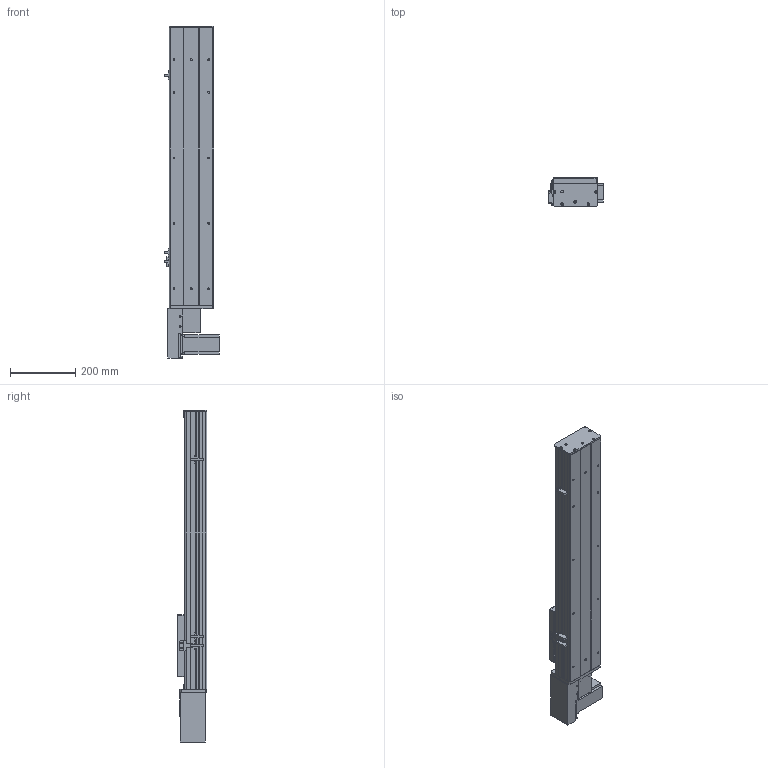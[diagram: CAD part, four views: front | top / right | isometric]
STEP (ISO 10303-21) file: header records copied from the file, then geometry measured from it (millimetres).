
FILE_DESCRIPTION (( 'STEP AP203' ), '1' );
FILE_NAME ('Y135CB-D90-S550-BR-P400W.STEP', '2020-02-18T02:14:16', ( '微软用户' ), ( '微软中国' ), 'SwSTEP 2.0', 'SolidWorks 2017', '' );
FILE_SCHEMA (( 'CONFIG_CONTROL_DESIGN' ));
Length unit declared in the file: millimetre
Products named in the file (18): Y135CB-D90-S550-BR-P400W; 5CB --掛极耜裔啣-; 135CB---遴掛极.-; C-詩湍揤踡え-陔; 35CB---喘謫眊楊擘啣; 135CB--詩湍-CE; Y10B-耜蚾蟀諉啣----; Y100-135俋离換覜ん--; Y俋欶BR----; Y135C-陔俋离換覜結え-; 0B-埴倛裔啣; 5C--俋欶; 0B-源倛裔啣; C-雄赽釱--; 0B-萇儂楊擘啣; Y10B--々湍喘謫眊--666; san松下电机400不带刹车----; Y135CB-耜裔
Assembly tree (21 placements, depth 2):
  Y135CB-D90-S550-BR-P400W
    Y135CB-耜裔
    135CB---遴掛极.-
    35CB---喘謫眊楊擘啣
    Y10B-耜蚾蟀諉啣----
    Y俋欶BR----
    0B-埴倛裔啣
    0B-源倛裔啣
    0B-萇儂楊擘啣
    san松下电机400不带刹车----
    5CB --掛极耜裔啣-  x2
    C-詩湍揤踡え-陔  x2
    135CB--詩湍-CE
    Y100-135俋离換覜ん--  x3
    Y135C-陔俋离換覜結え-
    5C--俋欶
    C-雄赽釱--
    Y10B--々湍喘謫眊--666
Bounding box: 167.5 x 91 x 1014.5 mm (x, y, z)
Volume: 3218635.3 mm3; surface area: 1248216.4 mm2
Topology: 21 solids, 21 shells, 937 faces, 2491 edges, 1650 vertices
Faces by surface type: cylinder 463, plane 458, cone 16
Entity records: 28937 total; most frequent: DIRECTION 4803, CARTESIAN_POINT 4724, ORIENTED_EDGE 4458, EDGE_CURVE 2229, AXIS2_PLACEMENT_3D 1745, VERTEX_POINT 1478, LINE 1313, VECTOR 1313
